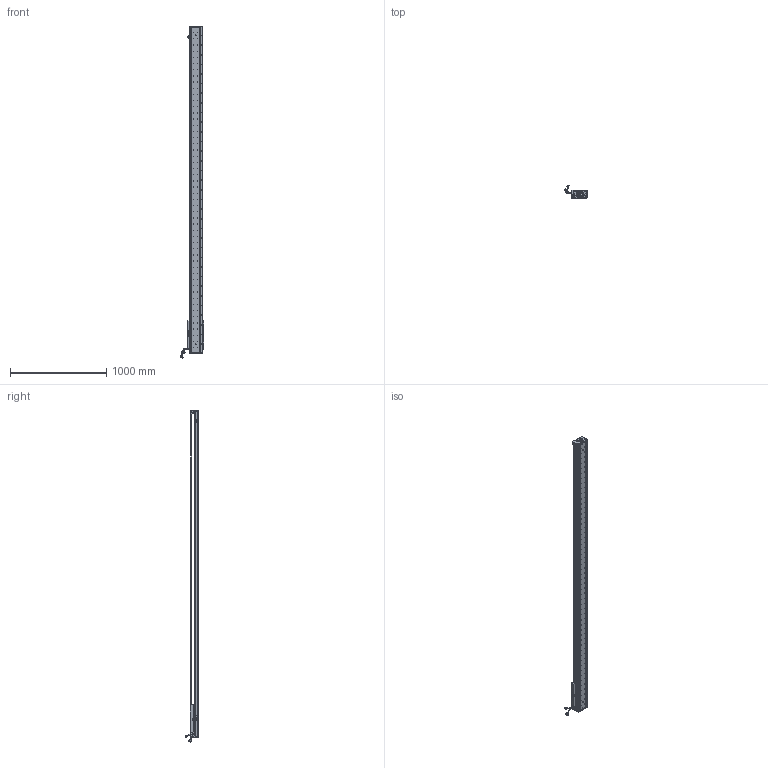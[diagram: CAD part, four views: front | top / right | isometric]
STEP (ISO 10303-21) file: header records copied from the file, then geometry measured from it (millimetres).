
FILE_DESCRIPTION (( 'STEP AP203' ), '1' );
FILE_NAME ('Z4-RY140D-1-L500-B-K.SLDASM_3000.step', '2021-05-17T08:22:26', ( '盈信电脑' ), ( '东莞市道滘镇水果街19号' ), 'SwSTEP 2.0', 'SolidWorks 2016', '' );
FILE_SCHEMA (( 'CONFIG_CONTROL_DESIGN' ));
Length unit declared in the file: millimetre
Products named in the file (36): SCALE-Part-1; SCREW-M1.7-1; 140蚥薯蝶輸; PSLH080_PSLF2; HOLDER0; Z4-RY140-L500直线电机模组底座_3000; SEAL-Part-1; 榋妏寠巭燃_暯_M2_2; LABEL-Part-1; 覜茼ん672; Z-RY140感应器672光电感应片; SCREW-M1.6-2; SCREW-M1.6-1; HARNESS-Part-1; Z4-RY140-L500詩湍100mm遵_3000; HARNESS-Part-2; SCREW-M1.6; Z4-RY140D-1-L500-B-K.SLDASM_3000; 詩湍奻揤裔; SCREW-M1.7; PBU_SHEET; SCALE; SCREW-M1.6-3; 080黍杅芛假蚾釱21遴; 140雄赽晤鎢ん堤盄; COVER-Part-1; SCALE-Part-2; SEAL; SHIELDPLATE; HARNESS; 140-Z-臏賑輸盄裔(21遴); LABEL; COVER; Z-140詩湍傷裔啣; 詩湍狟揤裔; Z4-RY140圉猾敕臏賑輸(21遴)
Assembly tree (41 placements, depth 4):
  Z4-RY140D-1-L500-B-K.SLDASM_3000
    Z4-RY140-L500直线电机模组底座_3000
    Z-RY140感应器672光电感应片
    Z4-RY140圉猾敕臏賑輸(21遴)
    覜茼ん672  x3
    Z4-RY140-L500詩湍100mm遵_3000
    PSLH080_PSLF2
      SCALE
        SCALE-Part-1
        SCALE-Part-2
      HARNESS
        HARNESS-Part-1
        HARNESS-Part-2
      LABEL
        LABEL-Part-1
      COVER
        COVER-Part-1
      SEAL
        SEAL-Part-1
      榋妏寠巭燃_暯_M2_2
      SHIELDPLATE
      SCREW-M1.7
      SCREW-M1.7-1
      PBU_SHEET
      SCREW-M1.6
      SCREW-M1.6-1
      SCREW-M1.6-2
      SCREW-M1.6-3
      HOLDER0
    080黍杅芛假蚾釱21遴
    140-Z-臏賑輸盄裔(21遴)
    Z-140詩湍傷裔啣  x2
    詩湍狟揤裔  x2
    詩湍奻揤裔  x2
    140蚥薯蝶輸  x2
    140雄赽晤鎢ん堤盄
Bounding box: 239.79 x 143.88 x 3440.87 mm (x, y, z)
Volume: 10941157.9 mm3; surface area: 2833914.3 mm2
Topology: 36 solids, 36 shells, 4662 faces, 12788 edges, 8097 vertices
Faces by surface type: cylinder 2614, plane 1468, cone 458, torus 69, bspline 53
Entity records: 151016 total; most frequent: CARTESIAN_POINT 43731, ORIENTED_EDGE 22384, DIRECTION 20404, EDGE_CURVE 11192, AXIS2_PLACEMENT_3D 7618, VERTEX_POINT 7265, LINE 5168, VECTOR 5168
